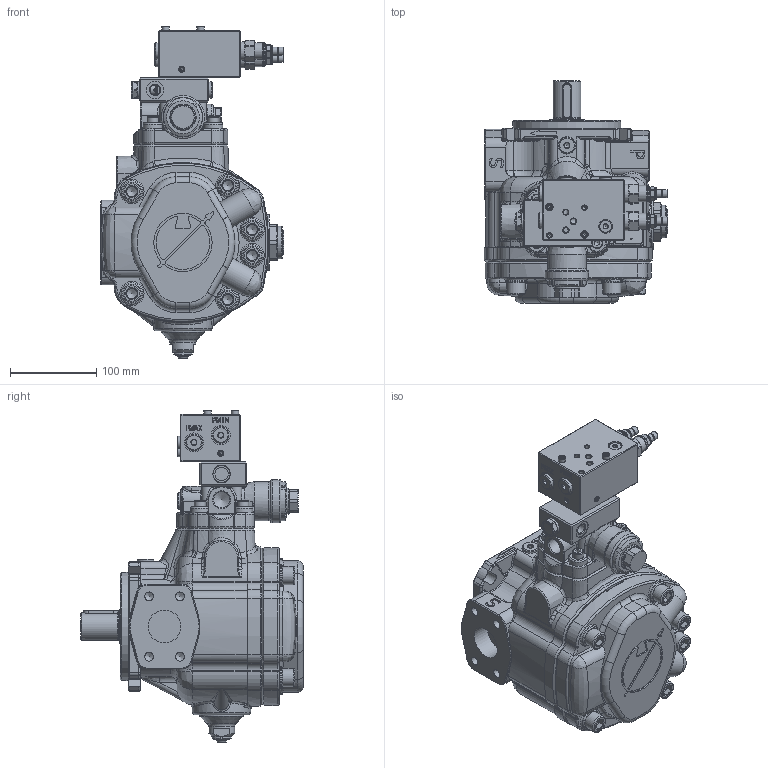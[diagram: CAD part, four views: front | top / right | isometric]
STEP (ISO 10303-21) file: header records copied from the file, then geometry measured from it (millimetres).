
FILE_DESCRIPTION(/* description */ (''),/* implementation_level */ '2;1');
FILE_NAME(/* name */ 'W:\Tecnico\Archivio\Berarma\Dimensioni Pompe\3D Export\Montaggio 3D semplificato\PLP-PHP 2\PHP 2 PCLS004.stp',/* time_stamp */ '2018-10-09T16:43:53+02:00',/* author */ ('marcop'),/* organization */ (''),/* preprocessor_version */ 'ST-DEVELOPER v17',/* originating_system */ 'Autodesk Inventor 2018',/* authorisation */ '');
FILE_SCHEMA (('AUTOMOTIVE_DESIGN { 1 0 10303 214 3 1 1 }'));
Products named in the file (1): PLP - PHP 2_Shrinkwrap_1
Bounding box: 212.33 x 257.5 x 384.1 mm (x, y, z)
Volume: 6176698.4 mm3; surface area: 374818.9 mm2
Topology: 1 solids, 1 shells, 2548 faces, 6646 edges, 4193 vertices
Faces by surface type: plane 1041, cylinder 599, bspline 367, cone 282, torus 225, sphere 34
Full cylindrical faces by diameter (mm): 0.9 x6, 1.7 x4, 2.5 x3, 3 x1, 4 x5, 4.134 x2, 5 x7, 5.5 x5, 6 x3, 6.5 x8, 7.2 x13, 7.671 x4, 8 x2, 8.376 x4, 8.5 x2, 8.566 x4, 9.347 x4, 9.5 x2, 10 x1, 10.106 x4, 11.445 x5, 12 x4, 13 x4, 13.487 x2, 13.5 x2, 13.767 x4, 14 x3, 14.224 x2, 14.63 x2, 15.5 x2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
Entity records: 94751 total; most frequent: CARTESIAN_POINT 31771, ORIENTED_EDGE 13152, DIRECTION 12138, EDGE_CURVE 6576, AXIS2_PLACEMENT_3D 4729, VERTEX_POINT 4193, EDGE_LOOP 2801, LINE 2680
